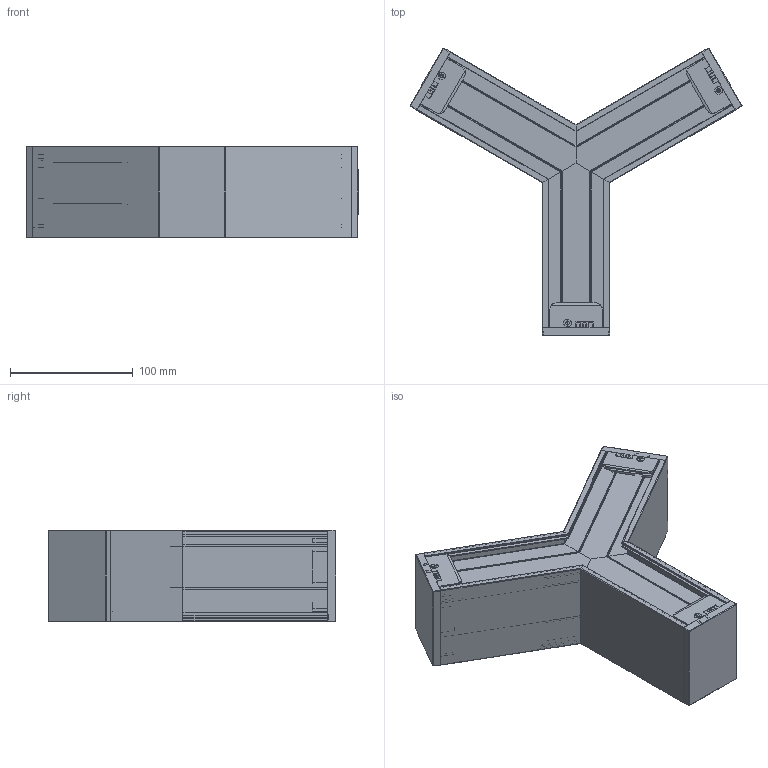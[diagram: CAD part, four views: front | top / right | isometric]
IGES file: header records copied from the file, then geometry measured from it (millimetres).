
Global section: file name: C:\Users\info\Desktop\CRIS\05. NEW PRODUCT\LUMINARIA KISS\3D para web\KISS Y - IGS.igs; native system: Rhinoceros ( Feb 27 2019 ); preprocessor: Trout Lake IGES 012 Feb 27 2019; date: 260427.134809; units: millimetre
Bounding box: 270.94 x 234.78 x 75 mm (x, y, z)
Surface area: 376286.4 mm2 (no closed solid volume)
Topology: 0 solids, 0 shells, 3321 faces, 28980 edges, 28971 vertices
Faces by surface type: bspline 3321
